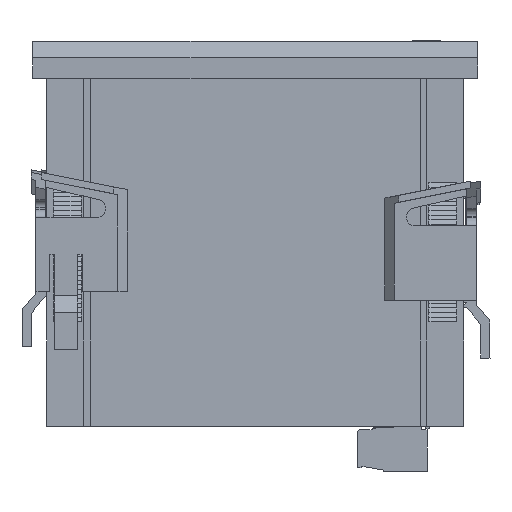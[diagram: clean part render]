
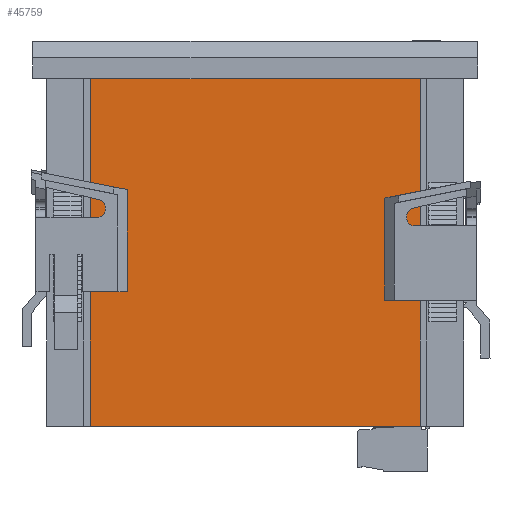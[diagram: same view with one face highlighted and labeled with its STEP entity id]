
A CAD part, left-side view. The second image highlights one B-rep face of the part: STEP entity #45759.
In plain terms, the highlighted planar face has unit normal (-1, 0, 0).
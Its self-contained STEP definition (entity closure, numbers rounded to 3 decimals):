
#2973=PLANE('',#48974);
#5447=FACE_OUTER_BOUND('',#8248,.T.);
#8248=EDGE_LOOP('',(#35638,#35639,#35640,#35641));
#12231=LINE('',#68672,#17637);
#12251=LINE('',#68713,#17657);
#12252=LINE('',#68715,#17658);
#12253=LINE('',#68716,#17659);
#17637=VECTOR('',#55838,10.);
#17657=VECTOR('',#55870,10.);
#17658=VECTOR('',#55871,10.);
#17659=VECTOR('',#55872,10.);
#22880=VERTEX_POINT('',#68670);
#22881=VERTEX_POINT('',#68671);
#22896=VERTEX_POINT('',#68712);
#22897=VERTEX_POINT('',#68714);
#27602=EDGE_CURVE('',#22880,#22881,#12231,.T.);
#27622=EDGE_CURVE('',#22896,#22881,#12251,.T.);
#27623=EDGE_CURVE('',#22896,#22897,#12252,.T.);
#27624=EDGE_CURVE('',#22880,#22897,#12253,.T.);
#35638=ORIENTED_EDGE('',*,*,#27602,.T.);
#35639=ORIENTED_EDGE('',*,*,#27622,.F.);
#35640=ORIENTED_EDGE('',*,*,#27623,.T.);
#35641=ORIENTED_EDGE('',*,*,#27624,.F.);
#45759=ADVANCED_FACE('',(#5447),#2973,.T.);
#48974=AXIS2_PLACEMENT_3D('',#68711,#55868,#55869);
#55838=DIRECTION('',(0.,0.,1.));
#55868=DIRECTION('center_axis',(-1.,0.,0.));
#55869=DIRECTION('ref_axis',(0.,1.,0.));
#55870=DIRECTION('',(0.,-1.,0.));
#55871=DIRECTION('',(0.,0.,-1.));
#55872=DIRECTION('',(0.,1.,0.));
#68670=CARTESIAN_POINT('',(3.,12.4,-75.));
#68671=CARTESIAN_POINT('',(3.,12.4,0.));
#68672=CARTESIAN_POINT('',(3.,12.4,-37.5));
#68711=CARTESIAN_POINT('Origin',(3.,3.,0.));
#68712=CARTESIAN_POINT('',(3.,83.6,0.));
#68713=CARTESIAN_POINT('',(3.,25.5,0.));
#68714=CARTESIAN_POINT('',(3.,83.6,-75.));
#68715=CARTESIAN_POINT('',(3.,83.6,-37.5));
#68716=CARTESIAN_POINT('',(3.,93.,-75.));
